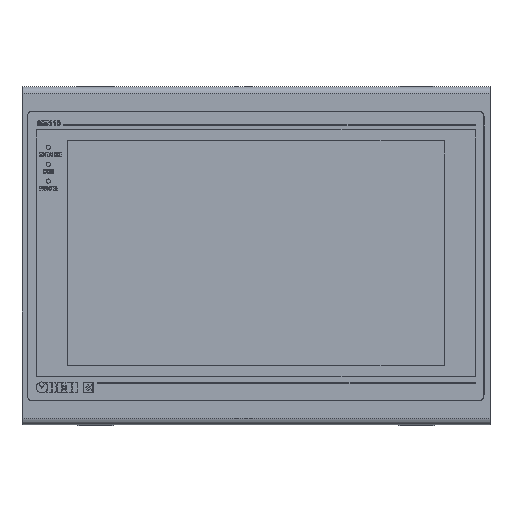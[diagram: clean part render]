
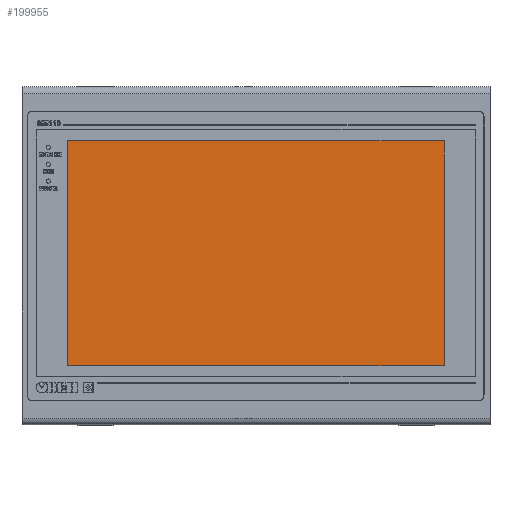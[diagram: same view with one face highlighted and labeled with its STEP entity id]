
A CAD part, top view. The second image highlights one B-rep face of the part: STEP entity #199955.
In plain terms, the highlighted planar face has unit normal (0, 0, 1).
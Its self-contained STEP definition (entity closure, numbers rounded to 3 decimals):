
#572 = VECTOR ( 'NONE', #294505, 1000. ) ;
#16443 = CARTESIAN_POINT ( 'NONE',  ( 23.65, 20.8, 0.4 ) ) ;
#28199 = DIRECTION ( 'NONE',  ( 0., -1., 0. ) ) ;
#32849 = AXIS2_PLACEMENT_3D ( 'NONE', #265011, #69066, #144207 ) ;
#48411 = CARTESIAN_POINT ( 'NONE',  ( 23.65, 153.8, 0.4 ) ) ;
#49660 = VERTEX_POINT ( 'NONE', #148117 ) ;
#55714 = ORIENTED_EDGE ( 'NONE', *, *, #59180, .T. ) ;
#56841 = DIRECTION ( 'NONE',  ( 1., 0., 0. ) ) ;
#59180 = EDGE_CURVE ( 'NONE', #49660, #246643, #253850, .T. ) ;
#69066 = DIRECTION ( 'NONE',  ( 0., 0., 1. ) ) ;
#76205 = CARTESIAN_POINT ( 'NONE',  ( 23.65, 153.8, 0.4 ) ) ;
#80537 = CARTESIAN_POINT ( 'NONE',  ( 246.65, 20.8, 0.4 ) ) ;
#88543 = VECTOR ( 'NONE', #28199, 1000. ) ;
#90894 = PLANE ( 'NONE',  #32849 ) ;
#102188 = LINE ( 'NONE', #198795, #160528 ) ;
#126369 = EDGE_LOOP ( 'NONE', ( #201081, #291456, #165167, #55714 ) ) ;
#136054 = EDGE_CURVE ( 'NONE', #287887, #49660, #102188, .T. ) ;
#138802 = EDGE_CURVE ( 'NONE', #278413, #287887, #256606, .T. ) ;
#144207 = DIRECTION ( 'NONE',  ( 1., 0., 0. ) ) ;
#148117 = CARTESIAN_POINT ( 'NONE',  ( 246.65, 153.8, 0.4 ) ) ;
#151022 = DIRECTION ( 'NONE',  ( 0., 1., 0. ) ) ;
#151389 = VECTOR ( 'NONE', #56841, 1000. ) ;
#155985 = CARTESIAN_POINT ( 'NONE',  ( 23.65, 20.8, 0.4 ) ) ;
#160528 = VECTOR ( 'NONE', #151022, 1000. ) ;
#165167 = ORIENTED_EDGE ( 'NONE', *, *, #136054, .T. ) ;
#198795 = CARTESIAN_POINT ( 'NONE',  ( 246.65, 153.8, 0.4 ) ) ;
#199955 = ADVANCED_FACE ( 'NONE', ( #251344 ), #90894, .T. ) ;
#201081 = ORIENTED_EDGE ( 'NONE', *, *, #262211, .T. ) ;
#209398 = LINE ( 'NONE', #76205, #88543 ) ;
#246643 = VERTEX_POINT ( 'NONE', #268421 ) ;
#251344 = FACE_OUTER_BOUND ( 'NONE', #126369, .T. ) ;
#253850 = LINE ( 'NONE', #48411, #572 ) ;
#256606 = LINE ( 'NONE', #155985, #151389 ) ;
#262211 = EDGE_CURVE ( 'NONE', #246643, #278413, #209398, .T. ) ;
#265011 = CARTESIAN_POINT ( 'NONE',  ( 0., 0., 0.4 ) ) ;
#268421 = CARTESIAN_POINT ( 'NONE',  ( 23.65, 153.8, 0.4 ) ) ;
#278413 = VERTEX_POINT ( 'NONE', #16443 ) ;
#287887 = VERTEX_POINT ( 'NONE', #80537 ) ;
#291456 = ORIENTED_EDGE ( 'NONE', *, *, #138802, .T. ) ;
#294505 = DIRECTION ( 'NONE',  ( -1., 0., 0. ) ) ;
